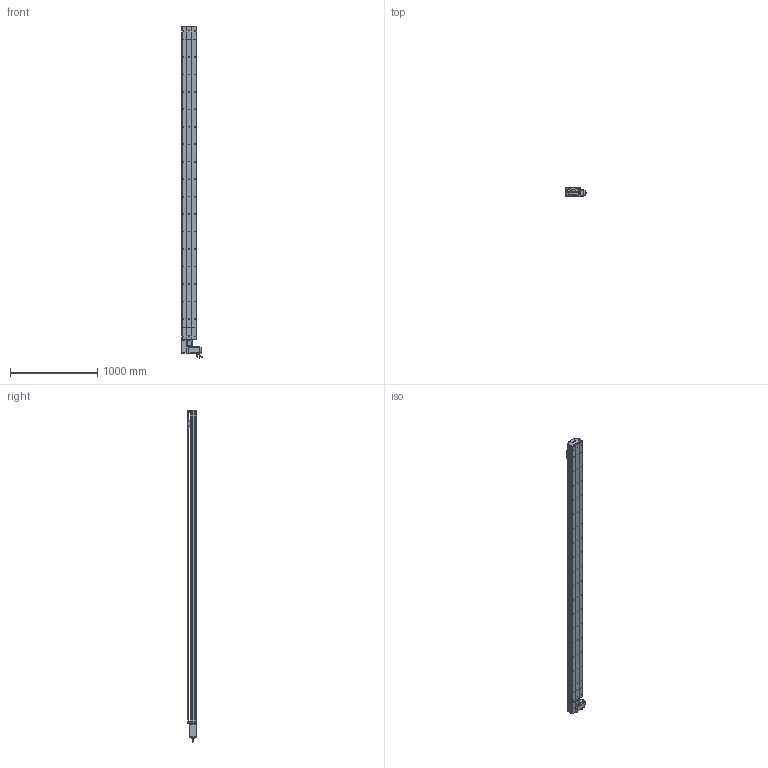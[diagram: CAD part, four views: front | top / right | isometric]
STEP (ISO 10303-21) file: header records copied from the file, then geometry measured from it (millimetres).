
FILE_DESCRIPTION (( 'STEP AP214' ), '1' );
FILE_NAME ('D17 TBN RH S3300.STEP', '2010-06-30T13:48:16', ( 'Conseil Régional Haute-Normandie' ), ( 'Conseil Régional Haute-Normandie' ), 'SwSTEP 2.0', 'SolidWorks 2010', '' );
FILE_SCHEMA (( 'AUTOMOTIVE_DESIGN' ));
Length unit declared in the file: millimetre
Products named in the file (40): poulie tail_Default; codeur 90BLDC125-640; plaque de  bout tail D17B_Default; Rail D17B; tete d''axe poulie D17B; cache arbre D17_Default; Vis M5 L16-2_Default; vis M5 L16_Default; corp tail D17B+100_Default; Tail D17B+100_Default; Renvoi RH_Default; Plaque racord D17_Default; vis M5 L70_Default; Conecteur_Default; Conecteur2_Default; Chariot D17 TBN; chariot D17 TBN; vis M5 L25_Default; guide D17; vis M5 L12_Default; vis M5 L8 90°_Default; couvercle D17B_Default; Couroie tail D17B_Default; course 3300 D17B_Default; D17 TBN RH S3300; couvercle D17B course L3300_Default; corp D17B 3300_Default; Couroie+ rail D17 Course 3300 ; couvercle D17B head_Default; corpl head D17 _Default; Head RH D17B_Default; cache D17_Default; Arbre+rail head D17B; plaque de  bout head D17B RH_Default; couroie head D17_Default; poulie head_Default; vis M5 L5_Default; corps 90BLDC125A-640; avant 90BLDC125A-640; Moteur motionking 90BLDC125A-640
Assembly tree (66 placements, depth 4):
  D17 TBN RH S3300
    Tail D17B+100_Default
      vis M5 L8 90°_Default  x2
      vis M5 L25_Default  x2
      corp tail D17B+100_Default
      poulie tail_Default
      tete d''axe poulie D17B
      Couroie tail D17B_Default
      vis M5 L12_Default  x4
      Rail D17B
      plaque de  bout tail D17B_Default
      couvercle D17B_Default
    course 3300 D17B_Default
      couvercle D17B course L3300_Default
      corp D17B 3300_Default
      Couroie+ rail D17 Course 3300 
    Head RH D17B_Default
      vis M5 L12_Default  x8
      Vis M5 L16-2_Default  x4
      plaque de  bout head D17B RH_Default
      vis M5 L70_Default  x4
      vis M5 L16_Default  x2
      vis M5 L5_Default  x4
      cache D17_Default  x2
      couvercle D17B head_Default
      couroie head D17_Default
      Renvoi RH_Default
      vis M5 L25_Default  x2
      corpl head D17 _Default
      poulie head_Default
      Plaque racord D17_Default
      Arbre+rail head D17B
      cache arbre D17_Default
      Moteur motionking 90BLDC125A-640
        corps 90BLDC125A-640
        Conecteur_Default
        avant 90BLDC125A-640
        Conecteur2_Default
        codeur 90BLDC125-640
    chariot D17 TBN
      guide D17  x2
      Chariot D17 TBN
Bounding box: 245.2 x 105.65 x 3800.95 mm (x, y, z)
Volume: 20869462.7 mm3; surface area: 6116846.7 mm2
Topology: 89 solids, 89 shells, 2679 faces, 6931 edges, 4466 vertices
Faces by surface type: plane 1537, cylinder 845, bspline 136, cone 80, torus 77, sphere 4
Entity records: 87621 total; most frequent: CARTESIAN_POINT 25865, ORIENTED_EDGE 11034, DIRECTION 10398, EDGE_CURVE 5517, VERTEX_POINT 3610, VECTOR 3572, LINE 3572, AXIS2_PLACEMENT_3D 3413
